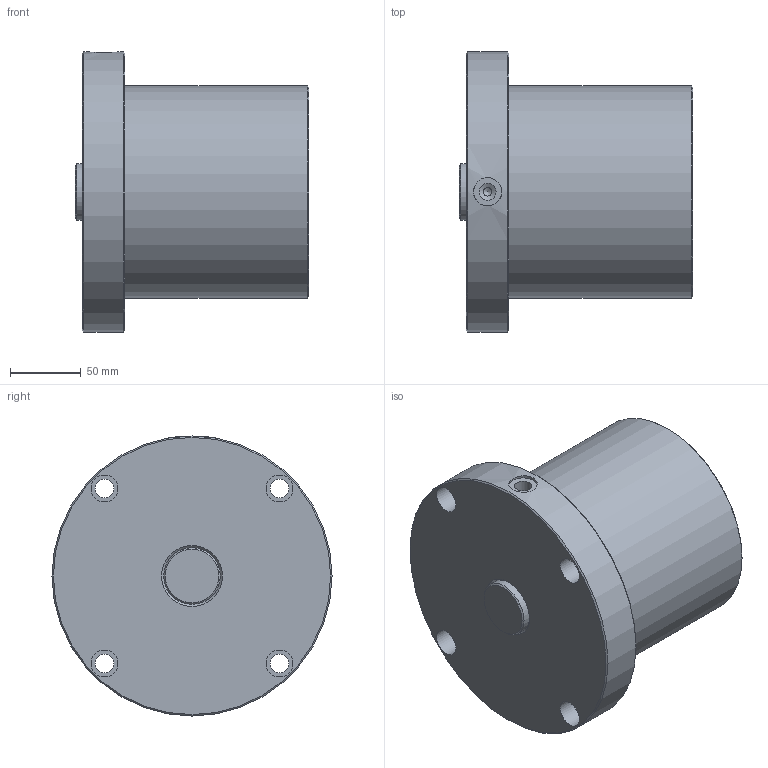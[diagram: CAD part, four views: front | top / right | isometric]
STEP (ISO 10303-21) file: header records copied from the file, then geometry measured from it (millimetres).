
FILE_DESCRIPTION( ( 'Unknown' ), '1' );
FILE_NAME( 'F:/JAKOB-STEP+IGES-Dateien/STEP-Dateien/ZDF/ZDFo 16000.stp', 'Unknown', ( 'Unknown' ), ( 'Unknown' ), 'XStep 1.0', 'Unknown', ' ' );
FILE_SCHEMA( ( 'CONFIG_CONTROL_DESIGN' ) );
Length unit declared in the file: millimetre
Products named in the file (1): 1
Bounding box: 165 x 198 x 198 mm (x, y, z)
Volume: 3197942.4 mm3; surface area: 147740.2 mm2
Topology: 1 solids, 1 shells, 30 faces, 62 edges, 40 vertices
Faces by surface type: cylinder 14, plane 9, cone 7
Full cylindrical faces by diameter (mm): 6 x1, 12 x1, 13 x4, 19 x4, 20 x1, 40 x1, 150 x1, 198 x1
Entity records: 789 total; most frequent: CARTESIAN_POINT 192, DIRECTION 126, EDGE_LOOP 66, ORIENTED_EDGE 66, AXIS2_PLACEMENT_3D 63, FACE_OUTER_BOUND 44, VERTEX_POINT 34, EDGE_CURVE 33
